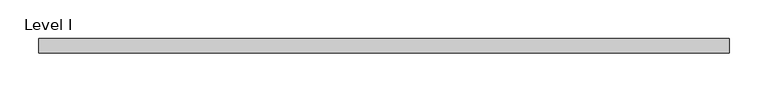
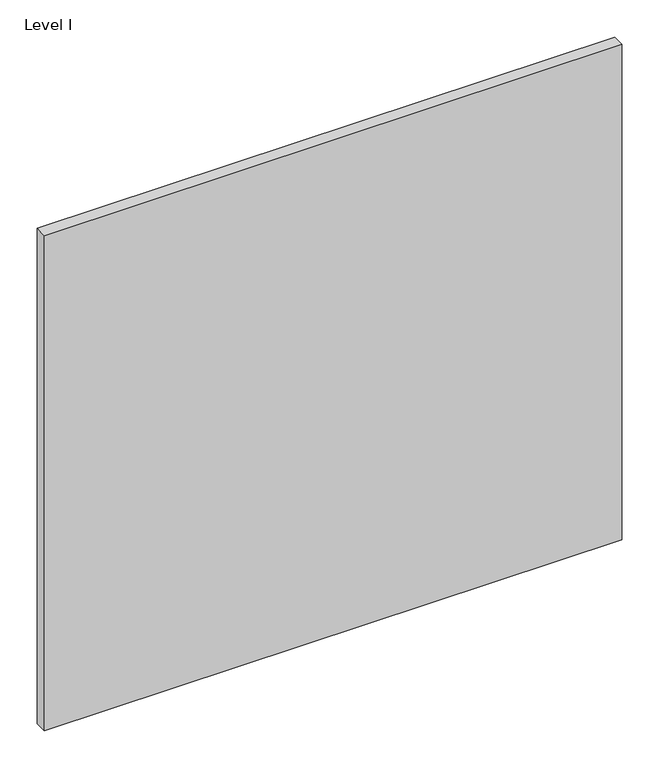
"""IFC4 building model written with IfcOpenShell, lengths in millimetres: proxy geometry, Panel-Fascia-Teknion-Altos-Standard : Level I."""

from ifc_helpers import new_model, si_unit, frame, origin, place, context, project, spatial, polyline, outline, extrude, source, transform, mapped, element, save


def level_i_c1e683c6(model_context):
    return source(origin(), model_context, "Body", "SweptSolid", [
        extrude(outline(polyline([(447.0300781, 9.525), (447.0300781, -9.525), (-447.0300781, -9.525), (-447.0300781, 9.525), (447.0300781, 9.525)])), frame((0.0, 0.0, 3.175), z_axis=(0.0, 0.0, 1.0), x_axis=(1.0, 0.0, 0.0)), (0.0, 0.0, 1.0), 810.768),
    ])


if __name__ == "__main__":
    model = new_model("IFC4")
    model_context = context("Model", 3, world=origin())
    ifc_project = project(units=[si_unit("LENGTHUNIT", "METRE", prefix="MILLI")], contexts=[model_context])
    site = spatial("IfcSite", under=ifc_project)
    building = spatial("IfcBuilding", under=site)
    placement = place(None, origin())
    level_i_shape = level_i_c1e683c6(model_context)
    element("IfcBuildingElementProxy", 1, Name="Panel-Fascia-Teknion-Altos-Standard : Level I", ObjectType="Panel-Fascia-Teknion-Altos-Standard : Level I", at=placement, inside=building, context=model_context, shape_type="MappedRepresentation", body=[
        mapped(level_i_shape, transform((0.0, 0.0, 0.0), x_axis=(1.0, 0.0, 0.0), y_axis=(0.0, 1.0, 0.0), z_axis=(0.0, 0.0, 1.0))),
    ])
    save(model, "model.ifc")
